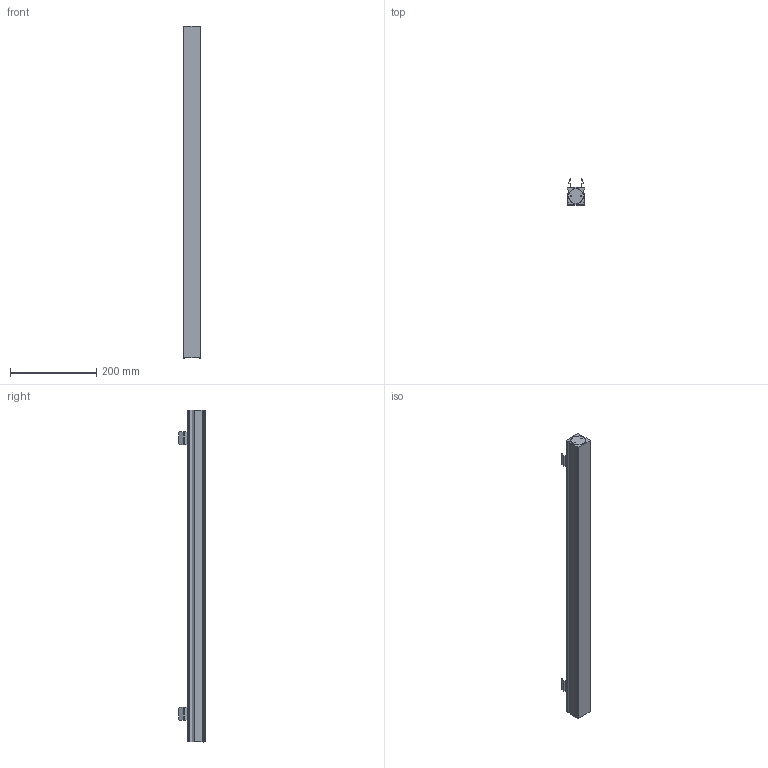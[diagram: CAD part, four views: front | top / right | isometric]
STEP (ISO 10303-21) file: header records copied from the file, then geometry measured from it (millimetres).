
FILE_DESCRIPTION((''),'2;1');
FILE_NAME('RNC_770_SW0001','2025-07-24T11:21:21',('Piccioli'),(''),'CREO PARAMETRIC BY PTC INC, 2025010','CREO PARAMETRIC BY PTC INC, 2025010','');
FILE_SCHEMA(('CONFIG_CONTROL_DESIGN'));
Length unit declared in the file: millimetre
Products named in the file (1): RNC_770_SW0001
Bounding box: 40 x 60.58 x 768 mm (x, y, z)
Surface area: 135785.1 mm2 (no closed solid volume)
Topology: 0 solids, 5 shells, 91 faces, 344 edges, 244 vertices
Faces by surface type: plane 53, cylinder 38
Entity records: 3962 total; most frequent: CARTESIAN_POINT 919, DIRECTION 660, ORIENTED_EDGE 568, EDGE_CURVE 344, VERTEX_POINT 244, AXIS2_PLACEMENT_3D 229, VECTOR 202, LINE 202
